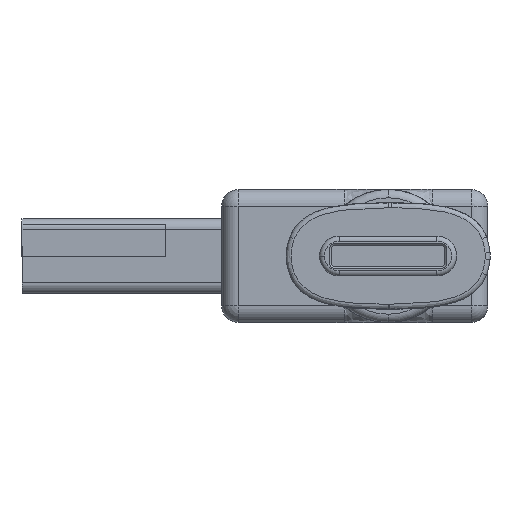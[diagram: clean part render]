
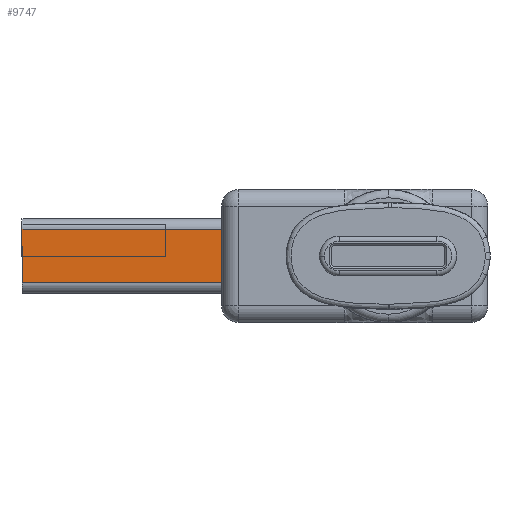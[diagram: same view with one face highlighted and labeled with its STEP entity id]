
A CAD part, front view. The second image highlights one B-rep face of the part: STEP entity #9747.
In plain terms, the highlighted planar face has unit normal (0, -1, 0).
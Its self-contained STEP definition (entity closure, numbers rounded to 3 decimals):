
#231 = CARTESIAN_POINT ( 'NONE',  ( -22., -6., 1.61 ) ) ;
#873 = ORIENTED_EDGE ( 'NONE', *, *, #8599, .F. ) ;
#1250 = VECTOR ( 'NONE', #10258, 1000. ) ;
#1409 = EDGE_CURVE ( 'NONE', #10014, #5178, #8174, .T. ) ;
#2177 = VECTOR ( 'NONE', #10319, 1000. ) ;
#2264 = DIRECTION ( 'NONE',  ( 0., -1., 0. ) ) ;
#3342 = CARTESIAN_POINT ( 'NONE',  ( 4.8, -6., -2.25 ) ) ;
#3954 = EDGE_LOOP ( 'NONE', ( #11643, #7283, #10366, #873 ) ) ;
#4399 = CARTESIAN_POINT ( 'NONE',  ( -22., -6., -2.25 ) ) ;
#5096 = AXIS2_PLACEMENT_3D ( 'NONE', #3342, #2264, #5558 ) ;
#5178 = VERTEX_POINT ( 'NONE', #231 ) ;
#5558 = DIRECTION ( 'NONE',  ( 0., 0., -1. ) ) ;
#5687 = FACE_OUTER_BOUND ( 'NONE', #3954, .T. ) ;
#5958 = VECTOR ( 'NONE', #9857, 1000. ) ;
#6165 = CARTESIAN_POINT ( 'NONE',  ( -22., -6., -1.61 ) ) ;
#6536 = VERTEX_POINT ( 'NONE', #8510 ) ;
#6705 = PLANE ( 'NONE',  #5096 ) ;
#7000 = EDGE_CURVE ( 'NONE', #12202, #5178, #10936, .T. ) ;
#7165 = CARTESIAN_POINT ( 'NONE',  ( 4.8, -6., 1.61 ) ) ;
#7283 = ORIENTED_EDGE ( 'NONE', *, *, #1409, .T. ) ;
#7593 = DIRECTION ( 'NONE',  ( -1., 0., 0. ) ) ;
#7835 = CARTESIAN_POINT ( 'NONE',  ( -10., -6., 1.61 ) ) ;
#8174 = LINE ( 'NONE', #7165, #1250 ) ;
#8332 = EDGE_CURVE ( 'NONE', #10014, #6536, #13696, .T. ) ;
#8510 = CARTESIAN_POINT ( 'NONE',  ( -10., -6., -1.61 ) ) ;
#8599 = EDGE_CURVE ( 'NONE', #6536, #12202, #10082, .T. ) ;
#9747 = ADVANCED_FACE ( 'NONE', ( #5687 ), #6705, .T. ) ;
#9825 = CARTESIAN_POINT ( 'NONE',  ( -1.046, -6., -1.61 ) ) ;
#9857 = DIRECTION ( 'NONE',  ( 0., 0., 1. ) ) ;
#10014 = VERTEX_POINT ( 'NONE', #7835 ) ;
#10082 = LINE ( 'NONE', #9825, #12035 ) ;
#10258 = DIRECTION ( 'NONE',  ( -1., 0., 0. ) ) ;
#10319 = DIRECTION ( 'NONE',  ( 0., 0., -1. ) ) ;
#10366 = ORIENTED_EDGE ( 'NONE', *, *, #7000, .F. ) ;
#10936 = LINE ( 'NONE', #4399, #5958 ) ;
#11470 = CARTESIAN_POINT ( 'NONE',  ( -10., -6., 4. ) ) ;
#11643 = ORIENTED_EDGE ( 'NONE', *, *, #8332, .F. ) ;
#12035 = VECTOR ( 'NONE', #7593, 1000. ) ;
#12202 = VERTEX_POINT ( 'NONE', #6165 ) ;
#13696 = LINE ( 'NONE', #11470, #2177 ) ;
